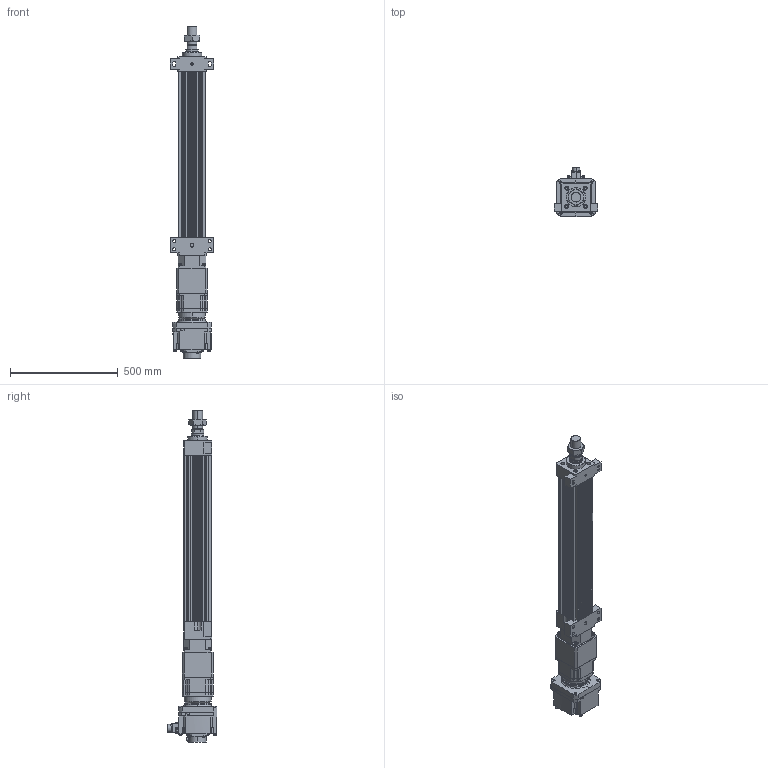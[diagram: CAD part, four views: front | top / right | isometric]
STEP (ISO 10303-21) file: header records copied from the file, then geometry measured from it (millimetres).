
FILE_DESCRIPTION (( 'STEP AP203' ), '1' );
FILE_NAME ('HES130FS(HS)-S550-W020G00-M-FFB.STEP', '2023-01-30T12:41:57', ( 'tms' ), ( '' ), 'SwSTEP 2.0', 'SolidWorks 2013', '' );
FILE_SCHEMA (( 'CONFIG_CONTROL_DESIGN' ));
Length unit declared in the file: millimetre
Products named in the file (9): HES130 ROD M ST550; HES130-S550-G142-FFB; HES130FS(HS)-S550-W020G00-M-FFB; HG-SR202; AB1421; P0403500801; P1301500001; AB142-003[HG-SR352]; M45X1.5P
Assembly tree (8 placements, depth 3):
  HES130FS(HS)-S550-W020G00-M-FFB
    HES130-S550-G142-FFB
    HES130 ROD M ST550
    M45X1.5P
    AB142-003[HG-SR352]
      AB1421
      P1301500001
      P0403500801
    HG-SR202
Bounding box: 200 x 228.85 x 1537.5 mm (x, y, z)
Volume: 13622112.8 mm3; surface area: 1773443.2 mm2
Topology: 4 solids, 22 shells, 1518 faces, 3922 edges, 2545 vertices
Faces by surface type: cylinder 676, plane 600, cone 160, bspline 76, torus 6
Entity records: 55270 total; most frequent: CARTESIAN_POINT 16778, DIRECTION 8032, ORIENTED_EDGE 7750, EDGE_CURVE 3897, AXIS2_PLACEMENT_3D 3016, VERTEX_POINT 2545, LINE 2000, VECTOR 2000
